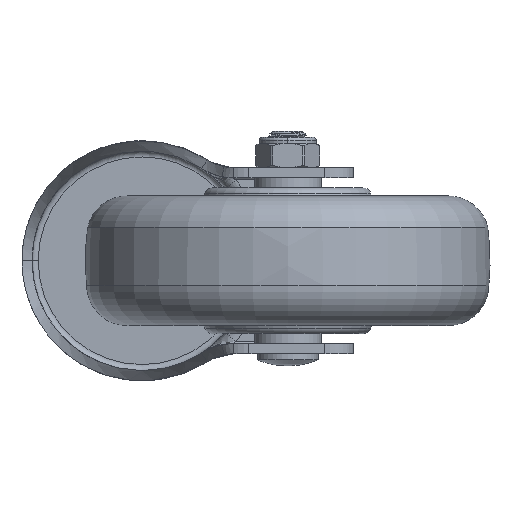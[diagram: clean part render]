
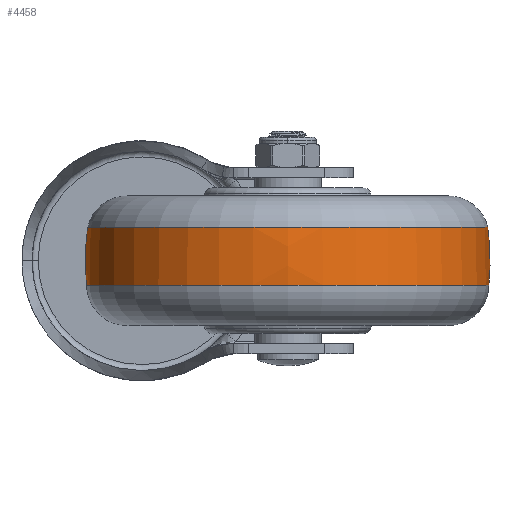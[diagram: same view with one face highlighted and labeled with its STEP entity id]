
A CAD part, front view. The second image highlights one B-rep face of the part: STEP entity #4458.
In plain terms, the highlighted free-form (B-spline) face has degree [3, 3] with [7, 4] control points.
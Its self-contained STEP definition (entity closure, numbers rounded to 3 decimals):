
#3843=CARTESIAN_POINT('',(-6.012,0.,0.));
#3844=DIRECTION('',(-1.,0.,0.));
#3845=DIRECTION('',(0.,1.,0.));
#3846=AXIS2_PLACEMENT_3D('',#3843,#3844,#3845);
#3858=CARTESIAN_POINT('',(0.,-11.437,0.));
#3859=DIRECTION('',(0.,0.,1.));
#3860=DIRECTION('',(0.135,0.991,0.));
#3861=AXIS2_PLACEMENT_3D('',#3858,#3859,#3860);
#3863=CARTESIAN_POINT('',(0.,11.437,0.));
#3864=DIRECTION('',(0.,0.,-1.));
#3865=DIRECTION('',(0.135,-0.991,0.));
#3866=AXIS2_PLACEMENT_3D('',#3863,#3864,#3865);
#3868=CARTESIAN_POINT('',(8.303,0.,0.));
#3869=DIRECTION('',(-1.,0.,0.));
#3870=DIRECTION('',(0.,1.,0.));
#3871=AXIS2_PLACEMENT_3D('',#3868,#3869,#3870);
#4083=CARTESIAN_POINT('',(-6.012,49.697,0.));
#4085=VERTEX_POINT('',#4083);
#4087=CARTESIAN_POINT('',(-6.012,-49.697,
0.));
#4089=VERTEX_POINT('',#4087);
#4116=CARTESIAN_POINT('',(8.303,49.428,0.));
#4118=VERTEX_POINT('',#4116);
#4120=CARTESIAN_POINT('',(8.303,-49.428,
0.));
#4122=VERTEX_POINT('',#4120);
#4422=CARTESIAN_POINT('',(-6.298,-49.57,
3.119));
#4423=CARTESIAN_POINT('',(-1.337,-50.08,
3.151));
#4424=CARTESIAN_POINT('',(3.649,-49.987,3.145));
#4425=CARTESIAN_POINT('',(8.587,-49.291,3.101));
#4426=CARTESIAN_POINT('',(-6.298,-51.489,
-27.387));
#4427=CARTESIAN_POINT('',(-1.337,-52.019,
-27.668));
#4428=CARTESIAN_POINT('',(3.649,-51.922,
-27.617));
#4429=CARTESIAN_POINT('',(8.587,-51.199,
-27.232));
#4430=CARTESIAN_POINT('',(-6.298,-30.566,
-49.668));
#4431=CARTESIAN_POINT('',(-1.337,-30.88,
-50.179));
#4432=CARTESIAN_POINT('',(3.649,-30.823,
-50.085));
#4433=CARTESIAN_POINT('',(8.587,-30.393,
-49.388));
#4434=CARTESIAN_POINT('',(-6.298,0.,-49.668));
#4435=CARTESIAN_POINT('',(-1.337,0.,-50.179));
#4436=CARTESIAN_POINT('',(3.649,0.,
-50.085));
#4437=CARTESIAN_POINT('',(8.587,0.,-49.388));
#4438=CARTESIAN_POINT('',(-6.298,30.566,
-49.668));
#4439=CARTESIAN_POINT('',(-1.337,30.88,
-50.179));
#4440=CARTESIAN_POINT('',(3.649,30.823,-50.085));
#4441=CARTESIAN_POINT('',(8.587,30.393,-49.388));
#4442=CARTESIAN_POINT('',(-6.298,51.489,
-27.387));
#4443=CARTESIAN_POINT('',(-1.337,52.019,
-27.668));
#4444=CARTESIAN_POINT('',(3.649,51.922,-27.617));
#4445=CARTESIAN_POINT('',(8.587,51.199,-27.232));
#4446=CARTESIAN_POINT('',(-6.298,49.57,3.119));
#4447=CARTESIAN_POINT('',(-1.337,50.08,3.151));
#4448=CARTESIAN_POINT('',(3.649,49.987,3.145));
#4449=CARTESIAN_POINT('',(8.587,49.291,3.101));
#4450=(BOUNDED_SURFACE()B_SPLINE_SURFACE(3,3,((#4422,#4423,#4424,#4425),(#4426,
#4427,#4428,#4429),(#4430,#4431,#4432,#4433),(#4434,#4435,#4436,#4437),(#4438,
#4439,#4440,#4441),(#4442,#4443,#4444,#4445),(#4446,#4447,#4448,#4449)),
.UNSPECIFIED.,.F.,.F.,.F.)B_SPLINE_SURFACE_WITH_KNOTS((4,3,4),(4,4),(0.,1.,
2.),(0.,1.),.UNSPECIFIED.)GEOMETRIC_REPRESENTATION_ITEM()RATIONAL_B_SPLINE_SURFACE(((1.192,1.186,1.186,1.192),(
0.941,0.936,0.936,0.941),(
0.941,0.936,0.936,0.941),(
1.192,1.186,1.186,1.192),(
0.941,0.936,0.936,0.941),(
0.941,0.936,0.936,0.941),(
1.192,1.186,1.186,1.192)))REPRESENTATION_ITEM('')SURFACE());
#4451=ORIENTED_EDGE('',*,*,#4412,.T.);
#4452=ORIENTED_EDGE('',*,*,#4365,.T.);
#4453=ORIENTED_EDGE('',*,*,#4416,.F.);
#4455=ORIENTED_EDGE('',*,*,#4454,.F.);
#4456=EDGE_LOOP('',(#4451,#4452,#4453,#4455));
#4457=FACE_OUTER_BOUND('',#4456,.F.);
#3847=CIRCLE('',#3846,49.697);
#3862=CIRCLE('',#3861,61.429);
#3867=CIRCLE('',#3866,61.429);
#3872=CIRCLE('',#3871,49.428);
#4365=EDGE_CURVE('',#4085,#4089,#3847,.T.);
#4412=EDGE_CURVE('',#4118,#4085,#3862,.T.);
#4416=EDGE_CURVE('',#4122,#4089,#3867,.T.);
#4454=EDGE_CURVE('',#4118,#4122,#3872,.T.);
#4458=ADVANCED_FACE('',(#4457),#4450,.T.);
